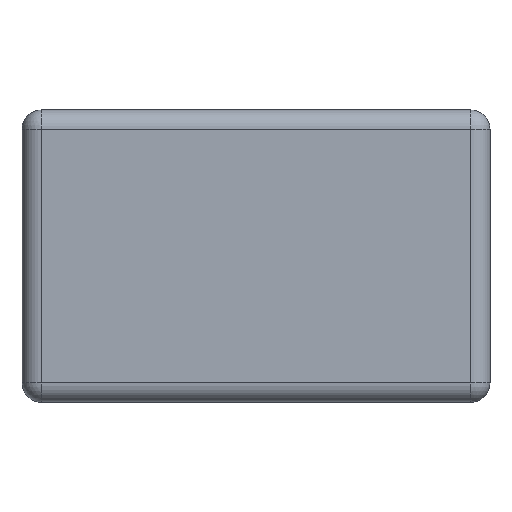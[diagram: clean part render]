
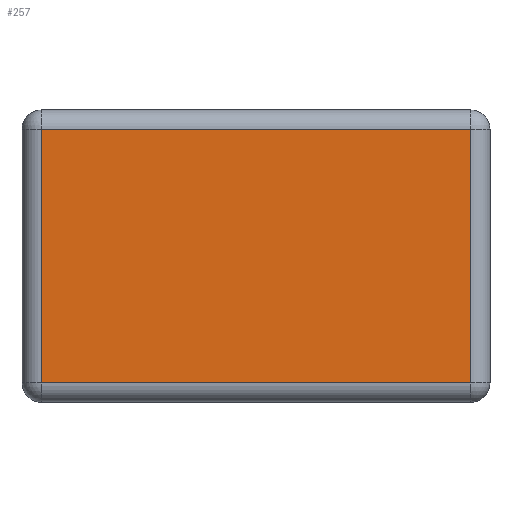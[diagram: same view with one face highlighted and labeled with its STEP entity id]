
A CAD part, left-side view. The second image highlights one B-rep face of the part: STEP entity #257.
In plain terms, the highlighted planar face has unit normal (-1, 0, 0).
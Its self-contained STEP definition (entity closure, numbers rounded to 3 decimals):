
#17 = CARTESIAN_POINT ( 'NONE',  ( -1., -0.55, 0.7 ) ) ;
#18 = VERTEX_POINT ( 'NONE', #17 ) ;
#26 = CARTESIAN_POINT ( 'NONE',  ( -1., -0.55, 0.05 ) ) ;
#27 = VERTEX_POINT ( 'NONE', #26 ) ;
#28 = CARTESIAN_POINT ( 'NONE',  ( -1., -0.55, 0.75 ) ) ;
#29 = DIRECTION ( 'NONE',  ( 0., 0., 1. ) ) ;
#30 = VECTOR ( 'NONE', #29, 1000. ) ;
#31 = LINE ( 'NONE', #28, #30 ) ;
#32 = EDGE_CURVE ( 'NONE', #27, #18, #31, .T. ) ;
#57 = CARTESIAN_POINT ( 'NONE',  ( -1., 0.55, 0.7 ) ) ;
#58 = VERTEX_POINT ( 'NONE', #57 ) ;
#76 = CARTESIAN_POINT ( 'NONE',  ( -1., 0.55, 0.05 ) ) ;
#77 = VERTEX_POINT ( 'NONE', #76 ) ;
#85 = CARTESIAN_POINT ( 'NONE',  ( -1., 0.55, 0. ) ) ;
#86 = DIRECTION ( 'NONE',  ( 0., 0., -1. ) ) ;
#87 = VECTOR ( 'NONE', #86, 1000. ) ;
#88 = LINE ( 'NONE', #85, #87 ) ;
#89 = EDGE_CURVE ( 'NONE', #58, #77, #88, .T. ) ;
#179 = CARTESIAN_POINT ( 'NONE',  ( -1., 0.6, 0.7 ) ) ;
#180 = DIRECTION ( 'NONE',  ( 0., 1., 0. ) ) ;
#181 = VECTOR ( 'NONE', #180, 1000. ) ;
#182 = LINE ( 'NONE', #179, #181 ) ;
#183 = EDGE_CURVE ( 'NONE', #18, #58, #182, .T. ) ;
#241 = ORIENTED_EDGE ( 'NONE', *, *, #183, .T. ) ;
#242 = ORIENTED_EDGE ( 'NONE', *, *, #89, .T. ) ;
#243 = CARTESIAN_POINT ( 'NONE',  ( -1., -0.6, 0.05 ) ) ;
#244 = DIRECTION ( 'NONE',  ( 0., -1., 0. ) ) ;
#245 = VECTOR ( 'NONE', #244, 1000. ) ;
#246 = LINE ( 'NONE', #243, #245 ) ;
#247 = EDGE_CURVE ( 'NONE', #77, #27, #246, .T. ) ;
#248 = ORIENTED_EDGE ( 'NONE', *, *, #247, .T. ) ;
#249 = ORIENTED_EDGE ( 'NONE', *, *, #32, .T. ) ;
#250 = EDGE_LOOP ( 'NONE', ( #241, #242, #248, #249 ) ) ;
#251 = FACE_OUTER_BOUND ( 'NONE', #250, .T. ) ;
#252 = CARTESIAN_POINT ( 'NONE',  ( -1., 0., 0. ) ) ;
#253 = DIRECTION ( 'NONE',  ( -1., 0., 0. ) ) ;
#254 = DIRECTION ( 'NONE',  ( 0., -1., 0. ) ) ;
#255 = AXIS2_PLACEMENT_3D ( 'NONE', #252, #253, #254 ) ;
#256 = PLANE ( 'NONE', #255 ) ;
#257 = ADVANCED_FACE ( 'NONE', ( #251 ), #256, .T. ) ;
